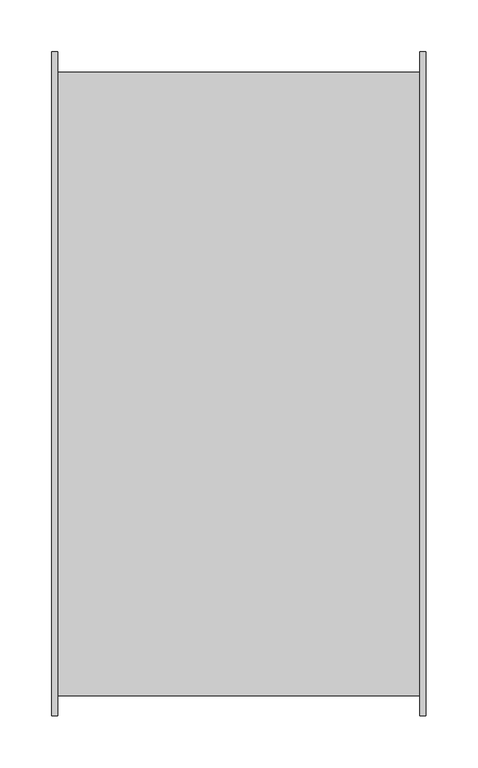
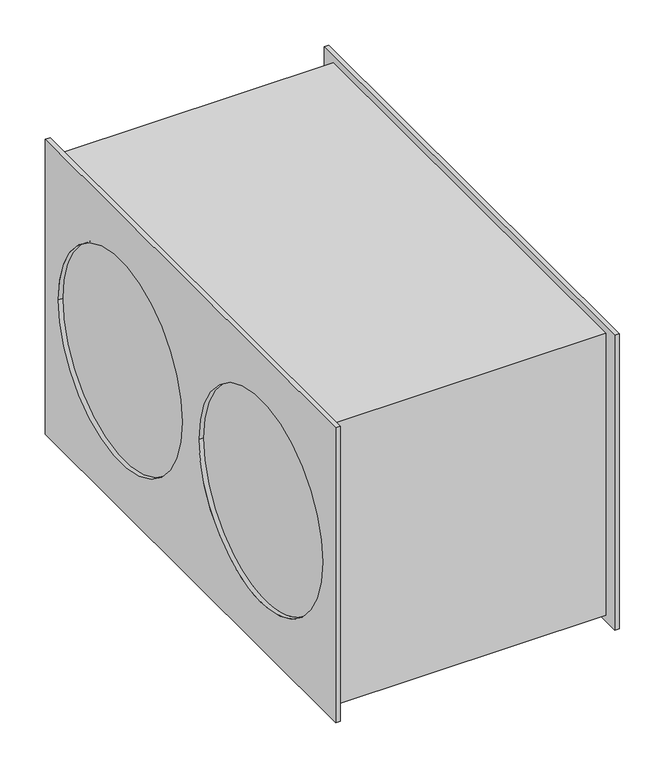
"""IFC4 building model written with IfcOpenShell, lengths in millimetres: unitary equipment geometry, VE-Wentylator-ParaForma-Harmann-JETTEC_REC_EC-Nawiewny : 060/35/2700EC."""

from ifc_helpers import new_model, si_unit, frame, origin, place, context, project, spatial, polyline, circle_curve, source, transform, mapped, element, save
from ifc_brep_helpers import plane_surface, revolved_surface, advanced_brep


def unitary_equipment_61ebb79e(model_context):
    return source(origin(), model_context, "Body", "AdvancedBrep", [
        advanced_brep(
        [(174.3, -319.5, -198.0), (174.3, -319.5, 198.0), (174.3, 319.5, 198.0), (174.3, 319.5, -198.0), (174.3, -299.8, 188.7), (174.3, -299.8, -189.9), (174.3, 299.8, -189.9), (174.3, 299.8, 188.7), (180.1, -319.5, -198.0), (180.1, 319.5, -198.0), (180.1, 319.5, 198.0), (180.1, -319.5, 198.0), (180.1, -290.8, 0.0), (180.1, -18.8, 0.0), (180.1, 18.8, 0.0), (180.1, 290.8, 0.0), (174.3, -18.8, 0.0), (174.3, -290.8, 0.0), (174.3, 290.8, 0.0), (174.3, 18.8, 0.0), (-174.3, -290.8, 0.0), (-174.3, -18.8, 0.0), (-174.3, 18.8, 0.0), (-174.3, 290.8, 0.0), (-174.3, -299.8, -189.9), (-174.3, -299.8, 188.7), (-174.3, 299.8, 188.7), (-174.3, 299.8, -189.9), (-180.1, -319.5, -198.0), (-180.1, -319.5, 198.0), (-180.1, 319.5, 198.0), (-180.1, 319.5, -198.0), (-180.1, -18.8, 0.0), (-180.1, -290.8, 0.0), (-180.1, 290.8, 0.0), (-180.1, 18.8, 0.0), (-174.3, -319.5, -198.0), (-174.3, 319.5, -198.0), (-174.3, 319.5, 198.0), (-174.3, -319.5, 198.0)],
        [
            (0, 1),
            (1, 2),
            (2, 3),
            (3, 0),
            (4, 5),
            (5, 6),
            (6, 7),
            (7, 4),
            (8, 9),
            (9, 10),
            (10, 11),
            (11, 8),
            (12, 13, circle_curve(frame((180.1, -154.8, 0.0), z_axis=(-1.0, 0.0, 0.0), x_axis=(0.0, 1.0, 0.0)), 136.0)),
            (13, 12, circle_curve(frame((180.1, -154.8, 0.0), z_axis=(-1.0, 0.0, 0.0), x_axis=(0.0, 1.0, 0.0)), 136.0)),
            (14, 15, circle_curve(frame((180.1, 154.8, 0.0), z_axis=(-1.0, 0.0, 0.0), x_axis=(0.0, 1.0, 0.0)), 136.0)),
            (15, 14, circle_curve(frame((180.1, 154.8, 0.0), z_axis=(-1.0, 0.0, 0.0), x_axis=(0.0, 1.0, 0.0)), 136.0)),
            (0, 8),
            (11, 1),
            (10, 2),
            (9, 3),
            (16, 13),
            (12, 17),
            (17, 16, circle_curve(frame((174.3, -154.8, 0.0), z_axis=(-1.0, 0.0, 0.0), x_axis=(0.0, 1.0, 0.0)), 136.0)),
            (16, 17, circle_curve(frame((174.3, -154.8, 0.0), z_axis=(-1.0, 0.0, 0.0), x_axis=(0.0, 1.0, 0.0)), 136.0)),
            (18, 15),
            (14, 19),
            (19, 18, circle_curve(frame((174.3, 154.8, 0.0), z_axis=(-1.0, 0.0, 0.0), x_axis=(0.0, 1.0, 0.0)), 136.0)),
            (18, 19, circle_curve(frame((174.3, 154.8, 0.0), z_axis=(-1.0, 0.0, 0.0), x_axis=(0.0, 1.0, 0.0)), 136.0)),
            (20, 21, circle_curve(frame((-174.3, -154.8, 0.0), z_axis=(-1.0, 0.0, 0.0), x_axis=(0.0, 1.0, 0.0)), 136.0)),
            (21, 20, circle_curve(frame((-174.3, -154.8, 0.0), z_axis=(-1.0, 0.0, 0.0), x_axis=(0.0, 1.0, 0.0)), 136.0)),
            (22, 23, circle_curve(frame((-174.3, 154.8, 0.0), z_axis=(-1.0, 0.0, 0.0), x_axis=(0.0, 1.0, 0.0)), 136.0)),
            (23, 22, circle_curve(frame((-174.3, 154.8, 0.0), z_axis=(-1.0, 0.0, 0.0), x_axis=(0.0, 1.0, 0.0)), 136.0)),
            (24, 5),
            (4, 25),
            (25, 24),
            (7, 26),
            (26, 25),
            (6, 27),
            (27, 26),
            (24, 27),
            (28, 29),
            (29, 30),
            (30, 31),
            (31, 28),
            (32, 33, circle_curve(frame((-180.1, -154.8, 0.0), z_axis=(1.0, 0.0, 0.0), x_axis=(0.0, 1.0, 0.0)), 136.0)),
            (33, 32, circle_curve(frame((-180.1, -154.8, 0.0), z_axis=(1.0, 0.0, 0.0), x_axis=(0.0, 1.0, 0.0)), 136.0)),
            (34, 35, circle_curve(frame((-180.1, 154.8, 0.0), z_axis=(1.0, 0.0, 0.0), x_axis=(0.0, 1.0, 0.0)), 136.0)),
            (35, 34, circle_curve(frame((-180.1, 154.8, 0.0), z_axis=(1.0, 0.0, 0.0), x_axis=(0.0, 1.0, 0.0)), 136.0)),
            (36, 37),
            (37, 38),
            (38, 39),
            (39, 36),
            (28, 36),
            (39, 29),
            (38, 30),
            (37, 31),
            (32, 21),
            (20, 33),
            (34, 23),
            (22, 35),
        ],
        [
            plane_surface(frame((174.3, 0.0, 0.0), z_axis=(-1.0, 0.0, 0.0), x_axis=(0.0, 0.0, 1.0))),
            plane_surface(frame((180.1, 0.0, 0.0), z_axis=(1.0, 0.0, 0.0), x_axis=(0.0, 0.0, 1.0))),
            plane_surface(frame((174.3, -319.5, -198.0), z_axis=(0.0, -1.0, 0.0), x_axis=(1.0, 0.0, 0.0))),
            plane_surface(frame((174.3, -319.5, 198.0), z_axis=(0.0, 0.0, 1.0), x_axis=(1.0, 0.0, 0.0))),
            plane_surface(frame((174.3, 319.5, 198.0), z_axis=(0.0, 1.0, 0.0), x_axis=(1.0, 0.0, 0.0))),
            plane_surface(frame((174.3, 319.5, -198.0), z_axis=(0.0, 0.0, -1.0), x_axis=(1.0, 0.0, 0.0))),
            revolved_surface(polyline([(174.3, -18.80000000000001, 0.0), (180.1, -18.80000000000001, 0.0)]), (174.3, -154.8, 0.0), (-1.0, 0.0, 0.0)),
            revolved_surface(polyline([(174.3, 290.8, 0.0), (180.1, 290.8, 0.0)]), (174.3, 154.8, 0.0), (-1.0, 0.0, 0.0)),
            plane_surface(frame((-174.3, 0.0, 0.0), z_axis=(-1.0, 0.0, 0.0), x_axis=(0.0, 0.0, 1.0))),
            plane_surface(frame((174.3, 0.0, 0.0), z_axis=(1.0, 0.0, 0.0), x_axis=(0.0, 0.0, 1.0))),
            plane_surface(frame((-174.3, -299.8, -189.9), z_axis=(0.0, -1.0, 0.0), x_axis=(1.0, 0.0, 0.0))),
            plane_surface(frame((-174.3, -299.8, 188.7), z_axis=(0.0, 0.0, 1.0), x_axis=(1.0, 0.0, 0.0))),
            plane_surface(frame((-174.3, 299.8, 188.7), z_axis=(0.0, 1.0, 0.0), x_axis=(1.0, 0.0, 0.0))),
            plane_surface(frame((-174.3, 299.8, -189.9), z_axis=(0.0, 0.0, -1.0), x_axis=(1.0, 0.0, 0.0))),
            plane_surface(frame((-180.1, 0.0, 0.0), z_axis=(-1.0, 0.0, 0.0), x_axis=(0.0, 0.0, 1.0))),
            plane_surface(frame((-174.3, 0.0, 0.0), z_axis=(1.0, 0.0, 0.0), x_axis=(0.0, 0.0, 1.0))),
            plane_surface(frame((-180.1, -319.5, -198.0), z_axis=(0.0, -1.0, 0.0), x_axis=(1.0, 0.0, 0.0))),
            plane_surface(frame((-180.1, -319.5, 198.0), z_axis=(0.0, 0.0, 1.0), x_axis=(1.0, 0.0, 0.0))),
            plane_surface(frame((-180.1, 319.5, 198.0), z_axis=(0.0, 1.0, 0.0), x_axis=(1.0, 0.0, 0.0))),
            plane_surface(frame((-180.1, 319.5, -198.0), z_axis=(0.0, 0.0, -1.0), x_axis=(1.0, 0.0, 0.0))),
            revolved_surface(polyline([(-180.1, -18.80000000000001, 0.0), (-174.3, -18.80000000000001, 0.0)]), (-180.1, -154.8, 0.0), (-1.0, 0.0, 0.0)),
            revolved_surface(polyline([(-180.1, 290.8, 0.0), (-174.3, 290.8, 0.0)]), (-180.1, 154.8, 0.0), (-1.0, 0.0, 0.0)),
        ],
        [
            (0, [[1, 2, 3, 4], [5, 6, 7, 8]]),
            (1, [[9, 10, 11, 12], [13, 14], [15, 16]]),
            (2, [[-1, 17, -12, 18]]),
            (3, [[-2, -18, -11, 19]]),
            (4, [[-3, -19, -10, 20]]),
            (5, [[-4, -20, -9, -17]]),
            (6, [[21, -13, 22, 23]]),
            (6, [[-21, 24, -22, -14]]),
            (7, [[25, -15, 26, 27]]),
            (7, [[-25, 28, -26, -16]]),
            (8, [[29, 30]]),
            (8, [[31, 32]]),
            (9, [[-23, -24]]),
            (9, [[-27, -28]]),
            (10, [[33, -5, 34, 35]]),
            (11, [[-34, -8, 36, 37]]),
            (12, [[-36, -7, 38, 39]]),
            (13, [[-33, 40, -38, -6]]),
            (14, [[41, 42, 43, 44], [45, 46], [47, 48]]),
            (15, [[49, 50, 51, 52], [-35, -37, -39, -40]]),
            (16, [[-41, 53, -52, 54]]),
            (17, [[-42, -54, -51, 55]]),
            (18, [[-43, -55, -50, 56]]),
            (19, [[-44, -56, -49, -53]]),
            (20, [[57, -29, 58, -45]]),
            (20, [[-57, -46, -58, -30]]),
            (21, [[59, -31, 60, -47]]),
            (21, [[-59, -48, -60, -32]]),
        ],
    ),
    ])


if __name__ == "__main__":
    model = new_model("IFC4")
    model_context = context("Model", 3, world=origin())
    ifc_project = project(units=[si_unit("LENGTHUNIT", "METRE", prefix="MILLI")], contexts=[model_context])
    site = spatial("IfcSite", under=ifc_project)
    building = spatial("IfcBuilding", under=site)
    placement = place(None, origin())
    unitary_equipment_shape = unitary_equipment_61ebb79e(model_context)
    element("IfcUnitaryEquipment", 1, ObjectType="VE-Wentylator-ParaForma-Harmann-JETTEC_REC_EC-Nawiewny : 060/35/2700EC", at=placement, inside=building, context=model_context, shape_type="MappedRepresentation", body=[
        mapped(unitary_equipment_shape, transform((0.0, 0.0, 0.0), x_axis=(1.0, 0.0, 0.0), y_axis=(0.0, 1.0, 0.0), z_axis=(0.0, 0.0, 1.0))),
    ])
    save(model, "model.ifc")
